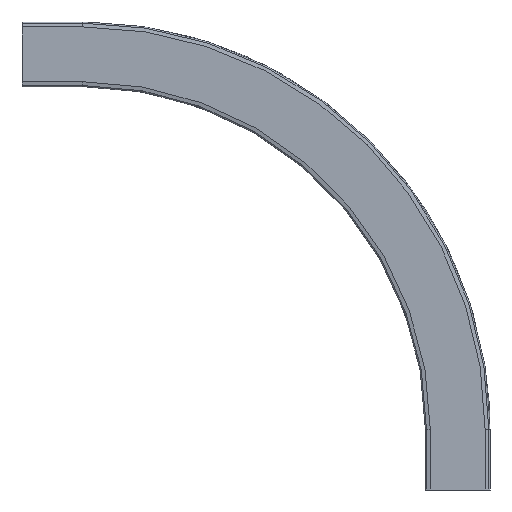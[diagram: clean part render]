
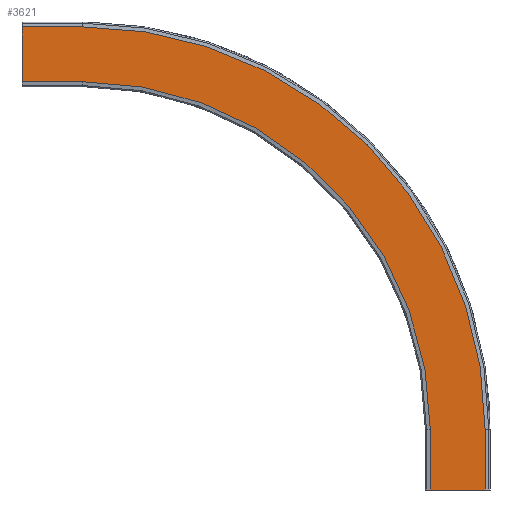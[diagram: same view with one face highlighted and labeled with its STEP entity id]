
A CAD part, front view. The second image highlights one B-rep face of the part: STEP entity #3621.
In plain terms, the highlighted planar face has unit normal (0, -1, 0).
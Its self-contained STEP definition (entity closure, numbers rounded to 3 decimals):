
#391=FACE_OUTER_BOUND('',#595,.T.);
#595=EDGE_LOOP('',(#3301,#3302,#3303,#3304,#3305,#3306,#3307,#3308));
#693=CIRCLE('',#3892,536.5);
#696=CIRCLE('',#3898,463.5);
#1030=LINE('',#6741,#1392);
#1035=LINE('',#6750,#1397);
#1037=LINE('',#6755,#1399);
#1052=LINE('',#6795,#1414);
#1057=LINE('',#6806,#1419);
#1058=LINE('',#6808,#1420);
#1392=VECTOR('',#4717,10.);
#1397=VECTOR('',#4724,10.);
#1399=VECTOR('',#4728,10.);
#1414=VECTOR('',#4769,10.);
#1419=VECTOR('',#4782,10.);
#1420=VECTOR('',#4785,10.);
#1740=VERTEX_POINT('',#6738);
#1741=VERTEX_POINT('',#6740);
#1744=VERTEX_POINT('',#6747);
#1745=VERTEX_POINT('',#6752);
#1755=VERTEX_POINT('',#6778);
#1757=VERTEX_POINT('',#6788);
#1758=VERTEX_POINT('',#6793);
#1760=VERTEX_POINT('',#6804);
#2244=EDGE_CURVE('',#1741,#1740,#1030,.T.);
#2249=EDGE_CURVE('',#1741,#1744,#1035,.T.);
#2251=EDGE_CURVE('',#1740,#1745,#1037,.T.);
#2264=EDGE_CURVE('',#1745,#1755,#693,.T.);
#2270=EDGE_CURVE('',#1744,#1757,#696,.T.);
#2272=EDGE_CURVE('',#1755,#1758,#1052,.T.);
#2277=EDGE_CURVE('',#1757,#1760,#1057,.T.);
#2278=EDGE_CURVE('',#1758,#1760,#1058,.T.);
#3301=ORIENTED_EDGE('',*,*,#2278,.T.);
#3302=ORIENTED_EDGE('',*,*,#2277,.F.);
#3303=ORIENTED_EDGE('',*,*,#2270,.F.);
#3304=ORIENTED_EDGE('',*,*,#2249,.F.);
#3305=ORIENTED_EDGE('',*,*,#2244,.T.);
#3306=ORIENTED_EDGE('',*,*,#2251,.T.);
#3307=ORIENTED_EDGE('',*,*,#2264,.T.);
#3308=ORIENTED_EDGE('',*,*,#2272,.T.);
#3434=PLANE('',#3904);
#3621=ADVANCED_FACE('',(#391),#3434,.T.);
#3892=AXIS2_PLACEMENT_3D('',#6780,#4749,#4750);
#3898=AXIS2_PLACEMENT_3D('',#6791,#4764,#4765);
#3904=AXIS2_PLACEMENT_3D('',#6807,#4783,#4784);
#4717=DIRECTION('',(1.,0.,0.));
#4724=DIRECTION('',(0.,0.,1.));
#4728=DIRECTION('',(0.,0.,1.));
#4749=DIRECTION('center_axis',(0.,-1.,0.));
#4750=DIRECTION('ref_axis',(1.,0.,0.));
#4764=DIRECTION('center_axis',(0.,-1.,0.));
#4765=DIRECTION('ref_axis',(1.,0.,0.));
#4769=DIRECTION('',(-1.,0.,0.));
#4782=DIRECTION('',(-1.,0.,0.));
#4783=DIRECTION('center_axis',(0.,-1.,0.));
#4784=DIRECTION('ref_axis',(1.,0.,0.));
#4785=DIRECTION('',(0.,0.,-1.));
#6738=CARTESIAN_POINT('',(36.5,-11.,0.));
#6740=CARTESIAN_POINT('',(-36.5,-11.,0.));
#6741=CARTESIAN_POINT('',(-36.5,-11.,0.));
#6747=CARTESIAN_POINT('',(-36.5,-11.,80.));
#6750=CARTESIAN_POINT('',(-36.5,-11.,0.));
#6752=CARTESIAN_POINT('',(36.5,-11.,80.));
#6755=CARTESIAN_POINT('',(36.5,-11.,0.));
#6778=CARTESIAN_POINT('',(-500.,-11.,616.5));
#6780=CARTESIAN_POINT('Origin',(-500.,-11.,80.));
#6788=CARTESIAN_POINT('',(-500.,-11.,543.5));
#6791=CARTESIAN_POINT('Origin',(-500.,-11.,80.));
#6793=CARTESIAN_POINT('',(-580.,-11.,616.5));
#6795=CARTESIAN_POINT('',(365.398,-11.,616.5));
#6804=CARTESIAN_POINT('',(-580.,-11.,543.5));
#6806=CARTESIAN_POINT('',(365.398,-11.,543.5));
#6807=CARTESIAN_POINT('Origin',(365.398,-11.,616.5));
#6808=CARTESIAN_POINT('',(-580.,-11.,599.75));
